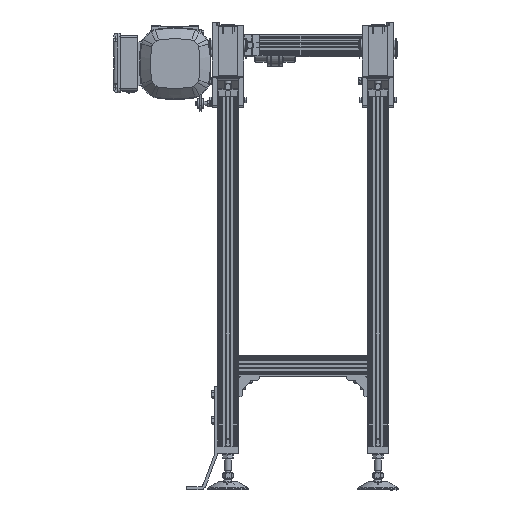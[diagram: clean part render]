
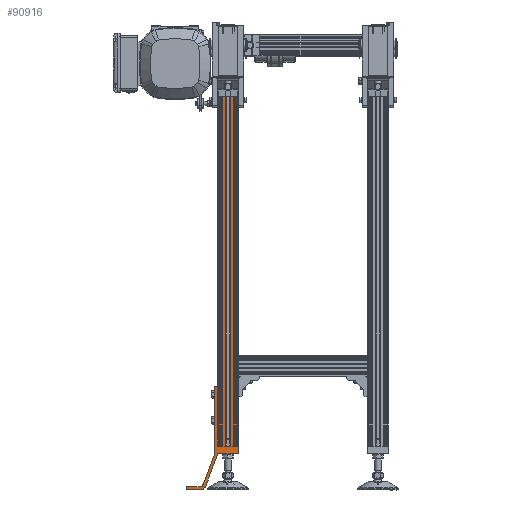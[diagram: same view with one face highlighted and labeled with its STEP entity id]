
A CAD part, left-side view. The second image highlights one B-rep face of the part: STEP entity #90916.
In plain terms, the highlighted planar face has unit normal (-1, 0, 0).
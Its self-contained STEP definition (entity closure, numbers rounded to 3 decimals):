
#5442=LINE('',#141709,#13846);
#5607=LINE('',#142359,#14011);
#5608=LINE('',#142360,#14012);
#5632=LINE('',#142429,#14036);
#5633=LINE('',#142431,#14037);
#5634=LINE('',#142433,#14038);
#5635=LINE('',#142435,#14039);
#5636=LINE('',#142437,#14040);
#5637=LINE('',#142441,#14041);
#5638=LINE('',#142445,#14042);
#5639=LINE('',#142447,#14043);
#5640=LINE('',#142449,#14044);
#5641=LINE('',#142453,#14045);
#5642=LINE('',#142457,#14046);
#5643=LINE('',#142458,#14047);
#5644=LINE('',#142460,#14048);
#5645=LINE('',#142461,#14049);
#5646=LINE('',#142463,#14050);
#5647=LINE('',#142465,#14051);
#5648=LINE('',#142466,#14052);
#13846=VECTOR('',#113379,15.);
#14011=VECTOR('',#113758,13.45);
#14012=VECTOR('',#113759,13.45);
#14036=VECTOR('',#113837,675.);
#14037=VECTOR('',#113838,1.);
#14038=VECTOR('',#113839,115.);
#14039=VECTOR('',#113840,6.);
#14040=VECTOR('',#113841,128.703);
#14041=VECTOR('',#113844,62.015);
#14042=VECTOR('',#113847,25.951);
#14043=VECTOR('',#113848,6.);
#14044=VECTOR('',#113849,25.933);
#14045=VECTOR('',#113852,63.225);
#14046=VECTOR('',#113855,1.249);
#14047=VECTOR('',#113856,40.);
#14048=VECTOR('',#113857,1.);
#14049=VECTOR('',#113858,675.);
#14050=VECTOR('',#113859,675.);
#14051=VECTOR('',#113860,11.1);
#14052=VECTOR('',#113861,675.);
#19308=PLANE('',#97540);
#25426=FACE_OUTER_BOUND('',#30765,.T.);
#30765=EDGE_LOOP('',(#69524,#69525,#69526,#69527,#69528,#69529,#69530,#69531,
#69532,#69533,#69534,#69535,#69536,#69537,#69538,#69539,#69540,#69541,#69542,
#69543,#69544,#69545,#69546,#69547));
#35978=CIRCLE('',#97541,12.);
#35979=CIRCLE('',#97542,6.);
#35980=CIRCLE('',#97543,12.);
#35981=CIRCLE('',#97544,12.);
#41951=VERTEX_POINT('',#141706);
#41952=VERTEX_POINT('',#141708);
#42072=VERTEX_POINT('',#142142);
#42075=VERTEX_POINT('',#142147);
#42077=VERTEX_POINT('',#142153);
#42081=VERTEX_POINT('',#142162);
#42132=VERTEX_POINT('',#142428);
#42133=VERTEX_POINT('',#142430);
#42134=VERTEX_POINT('',#142432);
#42135=VERTEX_POINT('',#142434);
#42136=VERTEX_POINT('',#142436);
#42137=VERTEX_POINT('',#142438);
#42138=VERTEX_POINT('',#142440);
#42139=VERTEX_POINT('',#142442);
#42140=VERTEX_POINT('',#142444);
#42141=VERTEX_POINT('',#142446);
#42142=VERTEX_POINT('',#142448);
#42143=VERTEX_POINT('',#142450);
#42144=VERTEX_POINT('',#142452);
#42145=VERTEX_POINT('',#142454);
#42146=VERTEX_POINT('',#142456);
#42147=VERTEX_POINT('',#142459);
#42148=VERTEX_POINT('',#142462);
#42149=VERTEX_POINT('',#142464);
#52041=EDGE_CURVE('',#41951,#41952,#5442,.T.);
#52265=EDGE_CURVE('',#42072,#42077,#5607,.T.);
#52266=EDGE_CURVE('',#42081,#42075,#5608,.T.);
#52295=EDGE_CURVE('',#42132,#42077,#5632,.T.);
#52296=EDGE_CURVE('',#42132,#42133,#5633,.T.);
#52297=EDGE_CURVE('',#42134,#42133,#5634,.T.);
#52298=EDGE_CURVE('',#42135,#42134,#5635,.T.);
#52299=EDGE_CURVE('',#42136,#42135,#5636,.T.);
#52300=EDGE_CURVE('',#42137,#42136,#35978,.T.);
#52301=EDGE_CURVE('',#42138,#42137,#5637,.T.);
#52302=EDGE_CURVE('',#42139,#42138,#35979,.T.);
#52303=EDGE_CURVE('',#42140,#42139,#5638,.T.);
#52304=EDGE_CURVE('',#42141,#42140,#5639,.T.);
#52305=EDGE_CURVE('',#42142,#42141,#5640,.T.);
#52306=EDGE_CURVE('',#42143,#42142,#35980,.T.);
#52307=EDGE_CURVE('',#42144,#42143,#5641,.T.);
#52308=EDGE_CURVE('',#42145,#42144,#35981,.T.);
#52309=EDGE_CURVE('',#42145,#42146,#5642,.T.);
#52310=EDGE_CURVE('',#42146,#41952,#5643,.T.);
#52311=EDGE_CURVE('',#41951,#42147,#5644,.T.);
#52312=EDGE_CURVE('',#42147,#42081,#5645,.T.);
#52313=EDGE_CURVE('',#42148,#42075,#5646,.T.);
#52314=EDGE_CURVE('',#42148,#42149,#5647,.T.);
#52315=EDGE_CURVE('',#42149,#42072,#5648,.T.);
#69524=ORIENTED_EDGE('',*,*,#52265,.T.);
#69525=ORIENTED_EDGE('',*,*,#52295,.F.);
#69526=ORIENTED_EDGE('',*,*,#52296,.T.);
#69527=ORIENTED_EDGE('',*,*,#52297,.F.);
#69528=ORIENTED_EDGE('',*,*,#52298,.F.);
#69529=ORIENTED_EDGE('',*,*,#52299,.F.);
#69530=ORIENTED_EDGE('',*,*,#52300,.F.);
#69531=ORIENTED_EDGE('',*,*,#52301,.F.);
#69532=ORIENTED_EDGE('',*,*,#52302,.F.);
#69533=ORIENTED_EDGE('',*,*,#52303,.F.);
#69534=ORIENTED_EDGE('',*,*,#52304,.F.);
#69535=ORIENTED_EDGE('',*,*,#52305,.F.);
#69536=ORIENTED_EDGE('',*,*,#52306,.F.);
#69537=ORIENTED_EDGE('',*,*,#52307,.F.);
#69538=ORIENTED_EDGE('',*,*,#52308,.F.);
#69539=ORIENTED_EDGE('',*,*,#52309,.T.);
#69540=ORIENTED_EDGE('',*,*,#52310,.T.);
#69541=ORIENTED_EDGE('',*,*,#52041,.F.);
#69542=ORIENTED_EDGE('',*,*,#52311,.T.);
#69543=ORIENTED_EDGE('',*,*,#52312,.T.);
#69544=ORIENTED_EDGE('',*,*,#52266,.T.);
#69545=ORIENTED_EDGE('',*,*,#52313,.F.);
#69546=ORIENTED_EDGE('',*,*,#52314,.T.);
#69547=ORIENTED_EDGE('',*,*,#52315,.T.);
#90916=ADVANCED_FACE('',(#25426),#19308,.T.);
#97540=AXIS2_PLACEMENT_3D('',#142427,#113835,#113836);
#97541=AXIS2_PLACEMENT_3D('',#142439,#113842,#113843);
#97542=AXIS2_PLACEMENT_3D('',#142443,#113845,#113846);
#97543=AXIS2_PLACEMENT_3D('',#142451,#113850,#113851);
#97544=AXIS2_PLACEMENT_3D('',#142455,#113853,#113854);
#113379=DIRECTION('',(0.,0.,-1.));
#113758=DIRECTION('',(0.,1.,0.));
#113759=DIRECTION('',(0.,1.,0.));
#113835=DIRECTION('center_axis',(-1.,0.,0.));
#113836=DIRECTION('ref_axis',(0.,-1.,0.));
#113837=DIRECTION('',(0.,0.,1.));
#113838=DIRECTION('',(0.,1.,0.));
#113839=DIRECTION('',(0.,0.,-1.));
#113840=DIRECTION('',(0.,-1.,0.));
#113841=DIRECTION('',(0.,0.,1.));
#113842=DIRECTION('center_axis',(-1.,0.,0.));
#113843=DIRECTION('ref_axis',(0.,1.,0.));
#113844=DIRECTION('',(0.,-0.353,0.936));
#113845=DIRECTION('center_axis',(-1.,0.,0.));
#113846=DIRECTION('ref_axis',(0.,0.977,0.214));
#113847=DIRECTION('',(0.,-1.,0.));
#113848=DIRECTION('',(0.,0.,1.));
#113849=DIRECTION('',(0.,1.,0.));
#113850=DIRECTION('center_axis',(1.,0.,0.));
#113851=DIRECTION('ref_axis',(0.,-0.977,-0.212));
#113852=DIRECTION('',(0.,0.349,-0.937));
#113853=DIRECTION('center_axis',(1.,0.,0.));
#113854=DIRECTION('ref_axis',(0.,-1.,0.));
#113855=DIRECTION('',(0.,0.,-1.));
#113856=DIRECTION('',(0.,-1.,0.));
#113857=DIRECTION('',(0.,1.,0.));
#113858=DIRECTION('',(0.,0.,1.));
#113859=DIRECTION('',(0.,0.,1.));
#113860=DIRECTION('',(0.,1.,0.));
#113861=DIRECTION('',(0.,0.,1.));
#141706=CARTESIAN_POINT('',(223.,125.,-713.55));
#141708=CARTESIAN_POINT('',(223.,125.,-728.55));
#141709=CARTESIAN_POINT('',(223.,125.,-713.55));
#142142=CARTESIAN_POINT('',(223.,150.55,-38.55));
#142147=CARTESIAN_POINT('',(223.,139.45,-38.55));
#142153=CARTESIAN_POINT('',(223.,164.,-38.55));
#142162=CARTESIAN_POINT('',(223.,126.,-38.55));
#142359=CARTESIAN_POINT('',(223.,154.5,-38.55));
#142360=CARTESIAN_POINT('',(223.,154.5,-38.55));
#142427=CARTESIAN_POINT('Origin',(223.,164.,-713.55));
#142428=CARTESIAN_POINT('',(223.,164.,-713.55));
#142429=CARTESIAN_POINT('',(223.,164.,-713.55));
#142430=CARTESIAN_POINT('',(223.,165.,-713.55));
#142431=CARTESIAN_POINT('',(223.,125.,-713.55));
#142432=CARTESIAN_POINT('',(223.,165.,-598.55));
#142433=CARTESIAN_POINT('',(223.,165.,-598.55));
#142434=CARTESIAN_POINT('',(223.,171.,-598.55));
#142435=CARTESIAN_POINT('',(223.,171.,-598.55));
#142436=CARTESIAN_POINT('',(223.,171.,-727.253));
#142437=CARTESIAN_POINT('',(223.,171.,-727.253));
#142438=CARTESIAN_POINT('',(223.,171.277,-729.817));
#142439=CARTESIAN_POINT('Origin',(223.,183.,-727.253));
#142440=CARTESIAN_POINT('',(223.,193.188,-787.832));
#142441=CARTESIAN_POINT('',(223.,193.188,-787.832));
#142442=CARTESIAN_POINT('',(223.,199.049,-792.55));
#142443=CARTESIAN_POINT('Origin',(223.,199.049,-786.55));
#142444=CARTESIAN_POINT('',(223.,225.,-792.55));
#142445=CARTESIAN_POINT('',(223.,225.,-792.55));
#142446=CARTESIAN_POINT('',(223.,225.,-798.55));
#142447=CARTESIAN_POINT('',(223.,225.,-798.55));
#142448=CARTESIAN_POINT('',(223.,199.067,-798.55));
#142449=CARTESIAN_POINT('',(223.,199.067,-798.55));
#142450=CARTESIAN_POINT('',(223.,187.34,-789.093));
#142451=CARTESIAN_POINT('Origin',(223.,199.067,-786.55));
#142452=CARTESIAN_POINT('',(223.,165.273,-729.844));
#142453=CARTESIAN_POINT('',(223.,165.273,-729.844));
#142454=CARTESIAN_POINT('',(223.,165.,-727.301));
#142455=CARTESIAN_POINT('Origin',(223.,177.,-727.301));
#142456=CARTESIAN_POINT('',(223.,165.,-728.55));
#142457=CARTESIAN_POINT('',(223.,165.,-713.55));
#142458=CARTESIAN_POINT('',(223.,125.,-728.55));
#142459=CARTESIAN_POINT('',(223.,126.,-713.55));
#142460=CARTESIAN_POINT('',(223.,125.,-713.55));
#142461=CARTESIAN_POINT('',(223.,126.,-713.55));
#142462=CARTESIAN_POINT('',(223.,139.45,-713.55));
#142463=CARTESIAN_POINT('',(223.,139.45,-713.55));
#142464=CARTESIAN_POINT('',(223.,150.55,-713.55));
#142465=CARTESIAN_POINT('',(223.,125.,-713.55));
#142466=CARTESIAN_POINT('',(223.,150.55,-713.55));
